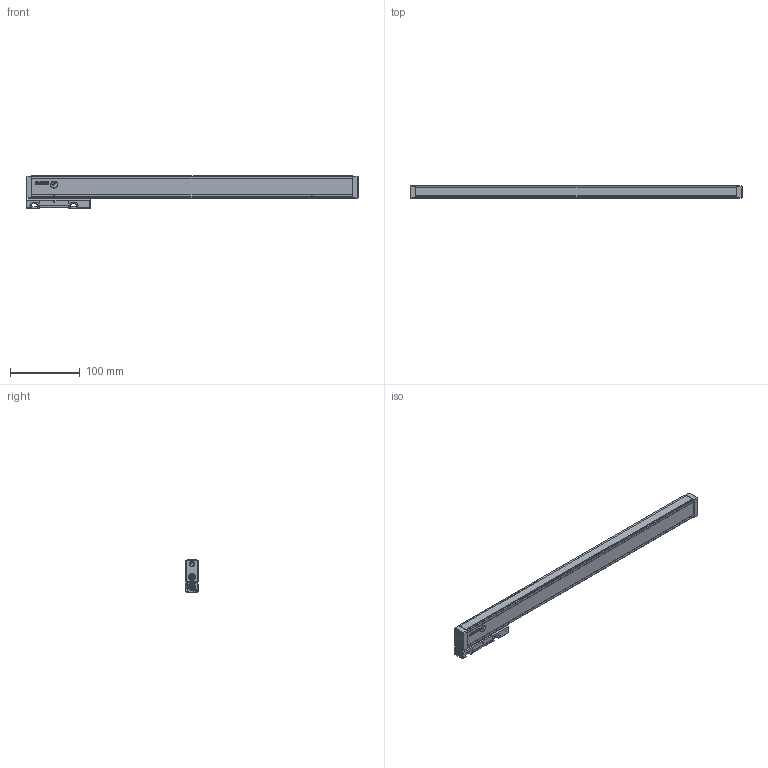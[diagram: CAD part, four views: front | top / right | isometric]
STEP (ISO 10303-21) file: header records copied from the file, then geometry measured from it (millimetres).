
FILE_DESCRIPTION(('Creo Elements/Direct Modeling STEP Export'),'2;1');
FILE_NAME('REGLA_SV3-370.stp','2020-10-30T12:17:25',(''),(''),'Creo Elements/Direct Modeling STEP processor for AP214 (Solid Model)','Creo Elements/Direct Modeling 19.0G 27-Nov-2017 (C) Parametric Technology GmbH','');
FILE_SCHEMA(('AUTOMOTIVE_DESIGN { 1 0 10303 214 1 1 1 1 }'));
Length unit declared in the file: millimetre
Products named in the file (4): PERFIL_REGLA_SV3-370; CABEZA_RANURADA_REGLA_S3
Assembly tree (2 placements, depth 2):
  PERFIL_REGLA_SV3-370
    PERFIL_REGLA_SV3-370
  CABEZA_RANURADA_REGLA_S3
    CABEZA_RANURADA_REGLA_S3
Bounding box: 475 x 18.3 x 46.2 mm (x, y, z)
Volume: 274407.6 mm3; surface area: 69212 mm2
Topology: 2 solids, 25 shells, 1508 faces, 4919 edges, 3517 vertices
Faces by surface type: plane 988, cylinder 369, cone 134, bspline 9, torus 8
Entity records: 63928 total; most frequent: CARTESIAN_POINT 12651, ORIENTED_EDGE 9818, DIRECTION 7796, EDGE_CURVE 4907, VECTOR 3690, LINE 3690, VERTEX_POINT 3517, AXIS2_PLACEMENT_3D 2053
